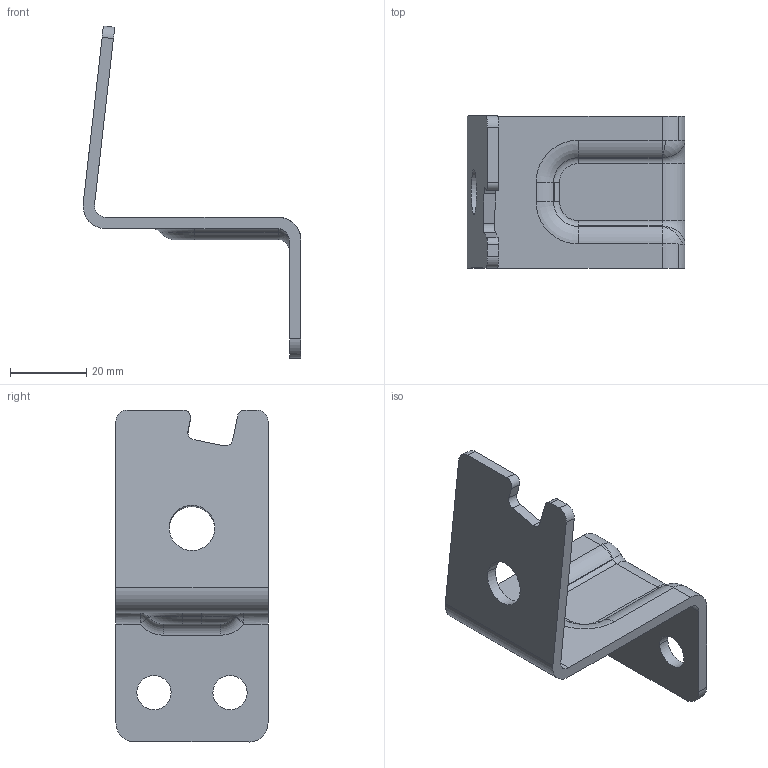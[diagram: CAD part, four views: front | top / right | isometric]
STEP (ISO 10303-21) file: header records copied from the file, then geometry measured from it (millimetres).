
FILE_DESCRIPTION(('CATIA V5 STEP Exchange'),'2;1');
FILE_NAME('E:\吉利商用车G3\3D\新开件\SHT0015268.stp','2022-12-11T06:43:42+00:00',('none'),('none'),'CATIA Version 5 Release 20 GA (IN-10)','CATIA V5 STEP AP214','none');
FILE_SCHEMA(('AUTOMOTIVE_DESIGN { 1 0 10303 214 1 1 1 1 }'));
Length unit declared in the file: millimetre
Products named in the file (1): Part98
Bounding box: 57.3 x 40 x 87.34 mm (x, y, z)
Volume: 15492.5 mm3; surface area: 11699.5 mm2
Topology: 1 solids, 1 shells, 75 faces, 199 edges, 118 vertices
Faces by surface type: cylinder 39, plane 16, torus 12, sphere 8
Entity records: 2573 total; most frequent: CARTESIAN_POINT 810, ORIENTED_EDGE 382, DIRECTION 307, EDGE_CURVE 191, AXIS2_PLACEMENT_3D 151, VERTEX_POINT 118, VECTOR 85, LINE 85
